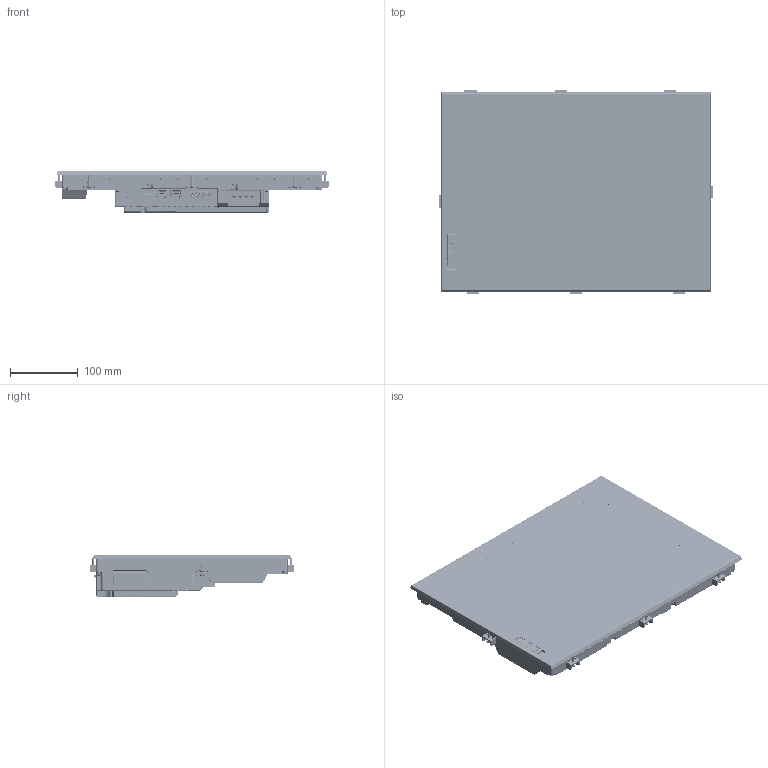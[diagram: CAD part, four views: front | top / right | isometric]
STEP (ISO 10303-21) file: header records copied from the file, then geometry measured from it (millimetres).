
FILE_DESCRIPTION((''),'2;1');
FILE_NAME('GT3715_A_ASM','2025-11-27T10:07:37',('KW48605'),(''),'CREO PARAMETRIC BY PTC INC, 2022281','CREO PARAMETRIC BY PTC INC, 2022281','');
FILE_SCHEMA(('CONFIG_CONTROL_DESIGN'));
Products named in the file (9): GT3715_A; COVER_1; COVER_2; COVER_3; COVER_4; TORITUKE_1; TORITUKE_2; TORITUKE_ASM; GT3715_A_ASM
Assembly tree (15 placements, depth 3):
  GT3715_A_ASM
    GT3715_A
    COVER_1
    COVER_2
    COVER_3
    COVER_4
    TORITUKE_ASM  x8
      TORITUKE_1
      TORITUKE_2
Bounding box: 402 x 301 x 61 mm (x, y, z)
Volume: 3907008 mm3; surface area: 382573 mm2
Topology: 21 solids, 48 shells, 11885 faces, 32379 edges, 21119 vertices
Faces by surface type: plane 7026, cylinder 3161, cone 689, extrusion 321, bspline 272, torus 267, sphere 149
Entity records: 399746 total; most frequent: CARTESIAN_POINT 108042, ORIENTED_EDGE 62284, DIRECTION 58202, EDGE_CURVE 31142, VECTOR 21982, LINE 21661, VERTEX_POINT 20406, AXIS2_PLACEMENT_3D 18110
